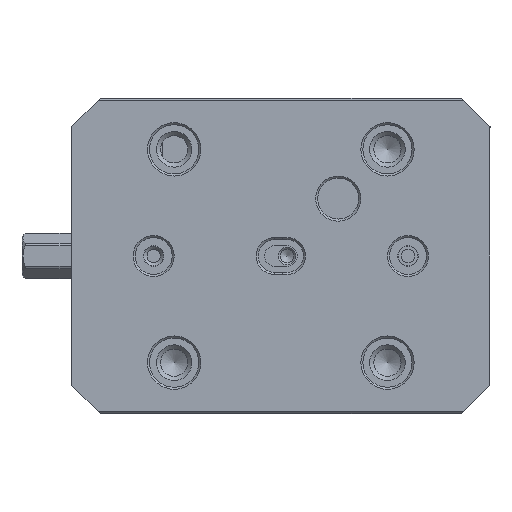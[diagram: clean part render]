
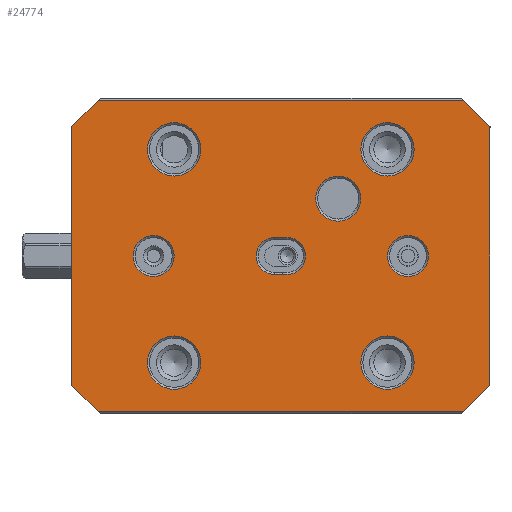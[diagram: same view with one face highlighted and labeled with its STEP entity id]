
A CAD part, front view. The second image highlights one B-rep face of the part: STEP entity #24774.
In plain terms, the highlighted planar face has unit normal (0, -1, 0).
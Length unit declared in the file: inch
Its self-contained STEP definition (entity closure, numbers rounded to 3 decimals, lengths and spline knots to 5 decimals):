
#928=FACE_BOUND('',#3457,.T.);
#929=FACE_BOUND('',#3458,.T.);
#930=FACE_BOUND('',#3459,.T.);
#931=FACE_BOUND('',#3460,.T.);
#932=FACE_BOUND('',#3461,.T.);
#933=FACE_BOUND('',#3462,.T.);
#934=FACE_BOUND('',#3463,.T.);
#935=FACE_BOUND('',#3464,.T.);
#1128=PLANE('',#26240);
#2082=FACE_OUTER_BOUND('',#3456,.T.);
#3456=EDGE_LOOP('',(#16844,#16845,#16846,#16847,#16848,#16849,#16850,#16851));
#3457=EDGE_LOOP('',(#16852));
#3458=EDGE_LOOP('',(#16853));
#3459=EDGE_LOOP('',(#16854));
#3460=EDGE_LOOP('',(#16855));
#3461=EDGE_LOOP('',(#16856));
#3462=EDGE_LOOP('',(#16857));
#3463=EDGE_LOOP('',(#16858));
#3464=EDGE_LOOP('',(#16859,#16860,#16861,#16862,#16863,#16864));
#5116=LINE('',#34775,#7527);
#5133=LINE('',#34805,#7544);
#5135=LINE('',#34809,#7546);
#5136=LINE('',#34811,#7547);
#5137=LINE('',#34813,#7548);
#5138=LINE('',#34815,#7549);
#5139=LINE('',#34817,#7550);
#5140=LINE('',#34818,#7551);
#5141=LINE('',#34839,#7552);
#5142=LINE('',#34843,#7553);
#7527=VECTOR('',#28460,0.3937);
#7544=VECTOR('',#28479,0.3937);
#7546=VECTOR('',#28483,4.47188);
#7547=VECTOR('',#28484,0.3937);
#7548=VECTOR('',#28485,0.3937);
#7549=VECTOR('',#28486,0.3937);
#7550=VECTOR('',#28487,4.47188);
#7551=VECTOR('',#28488,0.3937);
#7552=VECTOR('',#28507,0.07874);
#7553=VECTOR('',#28510,0.07874);
#9787=CIRCLE('',#26241,0.19685);
#9788=CIRCLE('',#26242,0.19685);
#9789=CIRCLE('',#26243,0.21654);
#9790=CIRCLE('',#26244,0.25591);
#9791=CIRCLE('',#26245,0.25591);
#9792=CIRCLE('',#26246,0.25591);
#9793=CIRCLE('',#26247,0.25591);
#9794=CIRCLE('',#26248,0.17717);
#9795=CIRCLE('',#26249,0.17717);
#9796=CIRCLE('',#26250,0.17717);
#9797=CIRCLE('',#26251,0.17717);
#10567=VERTEX_POINT('',#34772);
#10568=VERTEX_POINT('',#34774);
#10580=VERTEX_POINT('',#34804);
#10581=VERTEX_POINT('',#34808);
#10582=VERTEX_POINT('',#34810);
#10583=VERTEX_POINT('',#34812);
#10584=VERTEX_POINT('',#34814);
#10585=VERTEX_POINT('',#34816);
#10586=VERTEX_POINT('',#34819);
#10587=VERTEX_POINT('',#34821);
#10588=VERTEX_POINT('',#34823);
#10589=VERTEX_POINT('',#34825);
#10590=VERTEX_POINT('',#34827);
#10591=VERTEX_POINT('',#34829);
#10592=VERTEX_POINT('',#34831);
#10593=VERTEX_POINT('',#34833);
#10594=VERTEX_POINT('',#34834);
#10595=VERTEX_POINT('',#34836);
#10596=VERTEX_POINT('',#34838);
#10597=VERTEX_POINT('',#34840);
#10598=VERTEX_POINT('',#34842);
#13043=EDGE_CURVE('',#10567,#10568,#5116,.T.);
#13060=EDGE_CURVE('',#10580,#10568,#5133,.T.);
#13062=EDGE_CURVE('',#10581,#10567,#5135,.T.);
#13063=EDGE_CURVE('',#10582,#10581,#5136,.T.);
#13064=EDGE_CURVE('',#10582,#10583,#5137,.T.);
#13065=EDGE_CURVE('',#10584,#10583,#5138,.T.);
#13066=EDGE_CURVE('',#10585,#10584,#5139,.T.);
#13067=EDGE_CURVE('',#10580,#10585,#5140,.T.);
#13068=EDGE_CURVE('',#10586,#10586,#9787,.T.);
#13069=EDGE_CURVE('',#10587,#10587,#9788,.T.);
#13070=EDGE_CURVE('',#10588,#10588,#9789,.T.);
#13071=EDGE_CURVE('',#10589,#10589,#9790,.T.);
#13072=EDGE_CURVE('',#10590,#10590,#9791,.T.);
#13073=EDGE_CURVE('',#10591,#10591,#9792,.T.);
#13074=EDGE_CURVE('',#10592,#10592,#9793,.T.);
#13075=EDGE_CURVE('',#10593,#10594,#9794,.T.);
#13076=EDGE_CURVE('',#10595,#10593,#9795,.T.);
#13077=EDGE_CURVE('',#10596,#10595,#5141,.T.);
#13078=EDGE_CURVE('',#10597,#10596,#9796,.T.);
#13079=EDGE_CURVE('',#10598,#10597,#5142,.T.);
#13080=EDGE_CURVE('',#10594,#10598,#9797,.T.);
#16844=ORIENTED_EDGE('',*,*,#13043,.F.);
#16845=ORIENTED_EDGE('',*,*,#13062,.F.);
#16846=ORIENTED_EDGE('',*,*,#13063,.F.);
#16847=ORIENTED_EDGE('',*,*,#13064,.T.);
#16848=ORIENTED_EDGE('',*,*,#13065,.F.);
#16849=ORIENTED_EDGE('',*,*,#13066,.F.);
#16850=ORIENTED_EDGE('',*,*,#13067,.F.);
#16851=ORIENTED_EDGE('',*,*,#13060,.T.);
#16852=ORIENTED_EDGE('',*,*,#13068,.F.);
#16853=ORIENTED_EDGE('',*,*,#13069,.F.);
#16854=ORIENTED_EDGE('',*,*,#13070,.F.);
#16855=ORIENTED_EDGE('',*,*,#13071,.F.);
#16856=ORIENTED_EDGE('',*,*,#13072,.F.);
#16857=ORIENTED_EDGE('',*,*,#13073,.F.);
#16858=ORIENTED_EDGE('',*,*,#13074,.F.);
#16859=ORIENTED_EDGE('',*,*,#13075,.F.);
#16860=ORIENTED_EDGE('',*,*,#13076,.F.);
#16861=ORIENTED_EDGE('',*,*,#13077,.F.);
#16862=ORIENTED_EDGE('',*,*,#13078,.F.);
#16863=ORIENTED_EDGE('',*,*,#13079,.F.);
#16864=ORIENTED_EDGE('',*,*,#13080,.F.);
#24774=ADVANCED_FACE('',(#2082,#928,#929,#930,#931,#932,#933,#934,#935),
#1128,.T.);
#26240=AXIS2_PLACEMENT_3D('',#34807,#28481,#28482);
#26241=AXIS2_PLACEMENT_3D('',#34820,#28489,#28490);
#26242=AXIS2_PLACEMENT_3D('',#34822,#28491,#28492);
#26243=AXIS2_PLACEMENT_3D('',#34824,#28493,#28494);
#26244=AXIS2_PLACEMENT_3D('',#34826,#28495,#28496);
#26245=AXIS2_PLACEMENT_3D('',#34828,#28497,#28498);
#26246=AXIS2_PLACEMENT_3D('',#34830,#28499,#28500);
#26247=AXIS2_PLACEMENT_3D('',#34832,#28501,#28502);
#26248=AXIS2_PLACEMENT_3D('',#34835,#28503,#28504);
#26249=AXIS2_PLACEMENT_3D('',#34837,#28505,#28506);
#26250=AXIS2_PLACEMENT_3D('',#34841,#28508,#28509);
#26251=AXIS2_PLACEMENT_3D('',#34844,#28511,#28512);
#28460=DIRECTION('',(-0.707,0.,0.707));
#28479=DIRECTION('',(0.,0.,-1.));
#28481=DIRECTION('center_axis',(0.,-1.,0.));
#28482=DIRECTION('ref_axis',(0.,0.,
-1.));
#28483=DIRECTION('',(-1.,0.,0.));
#28484=DIRECTION('',(-0.707,0.,-0.707));
#28485=DIRECTION('',(0.,0.,1.));
#28486=DIRECTION('',(0.707,0.,-0.707));
#28487=DIRECTION('',(1.,0.,0.));
#28488=DIRECTION('',(0.707,0.,0.707));
#28489=DIRECTION('center_axis',(0.,-1.,0.));
#28490=DIRECTION('ref_axis',(-1.,0.,0.));
#28491=DIRECTION('center_axis',(0.,-1.,0.));
#28492=DIRECTION('ref_axis',(-1.,0.,0.));
#28493=DIRECTION('center_axis',(0.,-1.,0.));
#28494=DIRECTION('ref_axis',(-1.,0.,0.));
#28495=DIRECTION('center_axis',(0.,-1.,0.));
#28496=DIRECTION('ref_axis',(-1.,0.,0.));
#28497=DIRECTION('center_axis',(0.,-1.,0.));
#28498=DIRECTION('ref_axis',(-1.,0.,0.));
#28499=DIRECTION('center_axis',(0.,-1.,0.));
#28500=DIRECTION('ref_axis',(-1.,0.,0.));
#28501=DIRECTION('center_axis',(0.,-1.,0.));
#28502=DIRECTION('ref_axis',(-1.,0.,0.));
#28503=DIRECTION('center_axis',(0.,-1.,0.));
#28504=DIRECTION('ref_axis',(1.,0.,0.));
#28505=DIRECTION('center_axis',(0.,-1.,0.));
#28506=DIRECTION('ref_axis',(1.,0.,0.));
#28507=DIRECTION('',(1.,0.,0.));
#28508=DIRECTION('center_axis',(0.,-1.,0.));
#28509=DIRECTION('ref_axis',(-1.,0.,0.));
#28510=DIRECTION('',(-1.,0.,0.));
#28511=DIRECTION('center_axis',(0.,-1.,0.));
#28512=DIRECTION('ref_axis',(1.,0.,0.));
#34772=CARTESIAN_POINT('',(-2.29408,2.68416,-5.28171));
#34774=CARTESIAN_POINT('',(-2.54999,2.68416,-5.02581));
#34775=CARTESIAN_POINT('',(-2.28916,2.68416,-5.28663));
#34804=CARTESIAN_POINT('',(-2.54999,2.68416,-2.54549));
#34805=CARTESIAN_POINT('',(-2.54999,2.68416,-4.75444));
#34807=CARTESIAN_POINT('Origin',(-0.54212,2.68416,-3.78565));
#34808=CARTESIAN_POINT('',(1.20985,2.68416,-5.28171));
#34809=CARTESIAN_POINT('',(1.69383,2.68416,-5.28171));
#34810=CARTESIAN_POINT('',(1.46576,2.68416,-5.02581));
#34811=CARTESIAN_POINT('',(1.20493,2.68416,-5.28663));
#34812=CARTESIAN_POINT('',(1.46576,2.68416,-2.54549));
#34813=CARTESIAN_POINT('',(1.46576,2.68416,-2.60055));
#34814=CARTESIAN_POINT('',(1.20985,2.68416,-2.28959));
#34815=CARTESIAN_POINT('',(1.20493,2.68416,-2.28467));
#34816=CARTESIAN_POINT('',(-2.29408,2.68416,-2.28959));
#34817=CARTESIAN_POINT('',(-2.77806,2.68416,-2.28959));
#34818=CARTESIAN_POINT('',(-2.28916,2.68416,-2.28467));
#34819=CARTESIAN_POINT('',(-1.56574,2.68416,-3.78565));
#34820=CARTESIAN_POINT('Origin',(-1.76259,2.68416,-3.78565));
#34821=CARTESIAN_POINT('',(0.87521,2.68416,-3.78565));
#34822=CARTESIAN_POINT('Origin',(0.67836,2.68416,-3.78565));
#34823=CARTESIAN_POINT('',(0.2256,2.68416,-3.23447));
#34824=CARTESIAN_POINT('Origin',(0.00907,2.68416,-3.23447));
#34825=CARTESIAN_POINT('',(-1.30983,2.68416,-4.80927));
#34826=CARTESIAN_POINT('Origin',(-1.56574,2.68416,-4.80927));
#34827=CARTESIAN_POINT('',(0.73741,2.68416,-2.76203));
#34828=CARTESIAN_POINT('Origin',(0.48151,2.68416,-2.76203));
#34829=CARTESIAN_POINT('',(0.73741,2.68416,-4.80927));
#34830=CARTESIAN_POINT('Origin',(0.48151,2.68416,-4.80927));
#34831=CARTESIAN_POINT('',(-1.30983,2.68416,-2.76203));
#34832=CARTESIAN_POINT('Origin',(-1.56574,2.68416,-2.76203));
#34833=CARTESIAN_POINT('',(-0.50275,2.68416,-3.96172));
#34834=CARTESIAN_POINT('',(-0.50275,2.68416,-3.60958));
#34835=CARTESIAN_POINT('Origin',(-0.48306,2.68416,-3.78565));
#34836=CARTESIAN_POINT('',(-0.52243,2.68416,-3.96282));
#34837=CARTESIAN_POINT('Origin',(-0.52243,2.68416,-3.78565));
#34838=CARTESIAN_POINT('',(-0.60117,2.68416,-3.96282));
#34839=CARTESIAN_POINT('',(-0.60117,2.68416,-3.96282));
#34840=CARTESIAN_POINT('',(-0.60117,2.68416,-3.60849));
#34841=CARTESIAN_POINT('Origin',(-0.60117,2.68416,-3.78565));
#34842=CARTESIAN_POINT('',(-0.52243,2.68416,-3.60849));
#34843=CARTESIAN_POINT('',(-0.52243,2.68416,-3.60849));
#34844=CARTESIAN_POINT('Origin',(-0.52243,2.68416,-3.78565));
